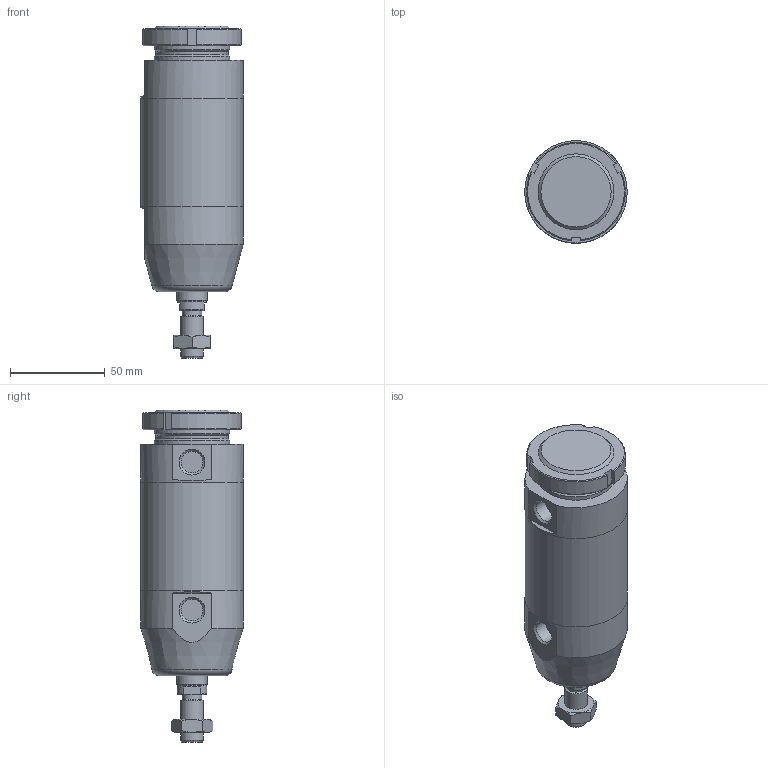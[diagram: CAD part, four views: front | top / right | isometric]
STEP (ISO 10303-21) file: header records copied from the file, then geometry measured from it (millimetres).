
FILE_DESCRIPTION(/* description */ (''),/* implementation_level */ '2;1');
FILE_NAME(/* name */ 'I:\Area Tecnica\Documenti\A-Manieri\_Inventor\12X\12X#B_###_####_#_#\12XAB_050_0015_#_#.stp',/* time_stamp */ '2015-04-27T16:25:02+02:00',/* author */ ('maniean1'),/* organization */ ('Pneumax S.p.A.'),/* preprocessor_version */ 'ST-DEVELOPER v15.2',/* originating_system */ 'Autodesk Inventor 2014',/* authorisation */ '');
FILE_SCHEMA (('AUTOMOTIVE_DESIGN { 1 0 10303 214 3 1 1 }'));
Length unit declared in the file: millimetre
Products named in the file (7): C1250_619-0015; 12X50_613; S12X50_0015; 12X_50_11; 12X50_620; G12X_050_05; 12XAB_050_0015_#_#
Bounding box: 54 x 54 x 175 mm (x, y, z)
Volume: 274754.7 mm3; surface area: 62720.3 mm2
Topology: 6 solids, 6 shells, 80 faces, 175 edges, 112 vertices
Faces by surface type: plane 40, cylinder 20, cone 19, torus 1
Full cylindrical faces by diameter (mm): 10.2 x1, 11.4 x2, 12 x2, 14 x1, 15.6 x1, 16 x1, 38.2 x1, 40 x3, 50 x2, 54 x3
Entity records: 2134 total; most frequent: CARTESIAN_POINT 399, DIRECTION 359, ORIENTED_EDGE 282, AXIS2_PLACEMENT_3D 154, EDGE_CURVE 141, EDGE_LOOP 122, VERTEX_POINT 107, ADVANCED_FACE 80
